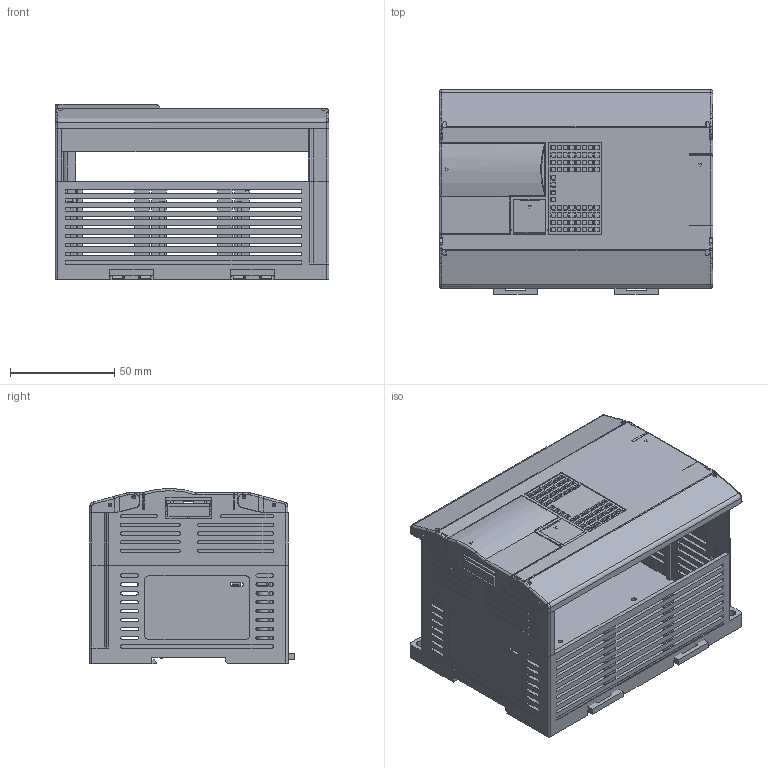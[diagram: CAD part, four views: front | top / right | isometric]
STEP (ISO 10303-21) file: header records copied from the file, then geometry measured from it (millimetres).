
FILE_DESCRIPTION (( 'STEP AP203' ), '1' );
FILE_NAME ('13公分 经典PLC扩展模块.STEP', '2023-06-10T02:56:41', ( 'h''w''s''j''s' ), ( '' ), 'SwSTEP 2.0', 'SolidWorks 2020', '' );
FILE_SCHEMA (( 'CONFIG_CONTROL_DESIGN' ));
Length unit declared in the file: millimetre
Products named in the file (1): 13公分 经典PLC扩展模块
Bounding box: 131.13 x 98 x 84.2 mm (x, y, z)
Volume: 128235.7 mm3; surface area: 142949.4 mm2
Topology: 5 solids, 5 shells, 1988 faces, 5886 edges, 3865 vertices
Faces by surface type: plane 1416, cylinder 493, bspline 32, cone 22, sphere 17, torus 8
Entity records: 67430 total; most frequent: CARTESIAN_POINT 13527, ORIENTED_EDGE 11746, DIRECTION 10439, EDGE_CURVE 5873, LINE 4633, VECTOR 4633, VERTEX_POINT 3865, AXIS2_PLACEMENT_3D 2903
